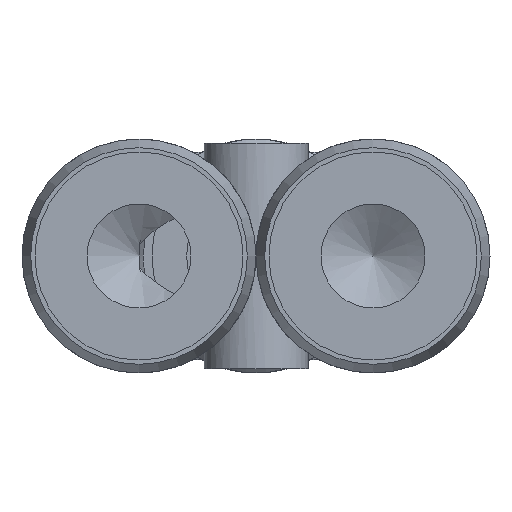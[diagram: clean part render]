
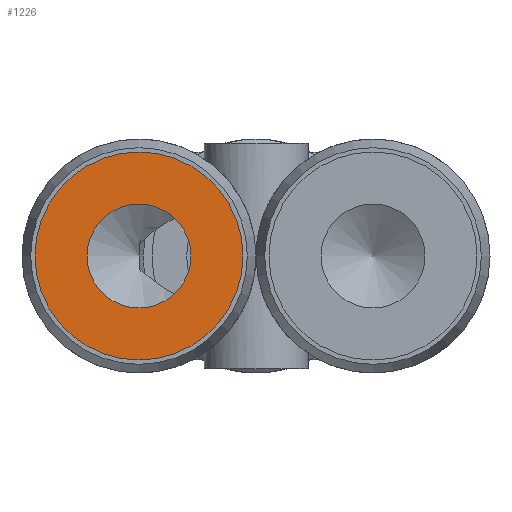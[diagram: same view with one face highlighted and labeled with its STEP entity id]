
A CAD part, front view. The second image highlights one B-rep face of the part: STEP entity #1226.
In plain terms, the highlighted planar face has unit normal (0, -1, 0).
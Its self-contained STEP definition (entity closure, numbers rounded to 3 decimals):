
#47=FACE_BOUND('',#235,.T.);
#65=PLANE('',#1362);
#154=FACE_OUTER_BOUND('',#234,.T.);
#234=EDGE_LOOP('',(#925,#926));
#235=EDGE_LOOP('',(#927));
#404=CIRCLE('',#1344,3.);
#414=CIRCLE('',#1360,6.);
#415=CIRCLE('',#1361,6.);
#520=VERTEX_POINT('',#2146);
#532=VERTEX_POINT('',#2200);
#533=VERTEX_POINT('',#2201);
#663=EDGE_CURVE('',#520,#520,#404,.T.);
#679=EDGE_CURVE('',#532,#533,#414,.T.);
#681=EDGE_CURVE('',#533,#532,#415,.T.);
#925=ORIENTED_EDGE('',*,*,#679,.F.);
#926=ORIENTED_EDGE('',*,*,#681,.F.);
#927=ORIENTED_EDGE('',*,*,#663,.T.);
#1226=ADVANCED_FACE('',(#154,#47),#65,.F.);
#1344=AXIS2_PLACEMENT_3D('',#2147,#1584,#1585);
#1360=AXIS2_PLACEMENT_3D('',#2202,#1618,#1619);
#1361=AXIS2_PLACEMENT_3D('',#2204,#1621,#1622);
#1362=AXIS2_PLACEMENT_3D('',#2205,#1623,#1624);
#1584=DIRECTION('center_axis',(0.,1.,0.));
#1585=DIRECTION('ref_axis',(-1.,0.,0.));
#1618=DIRECTION('center_axis',(0.,1.,0.));
#1619=DIRECTION('ref_axis',(-1.,0.,0.));
#1621=DIRECTION('center_axis',(0.,1.,0.));
#1622=DIRECTION('ref_axis',(-1.,0.,0.));
#1623=DIRECTION('center_axis',(0.,1.,0.));
#1624=DIRECTION('ref_axis',(0.,0.,-1.));
#2146=CARTESIAN_POINT('',(-3.75,-14.113,0.));
#2147=CARTESIAN_POINT('Origin',(-6.75,-14.113,0.));
#2200=CARTESIAN_POINT('',(-12.75,-14.113,0.));
#2201=CARTESIAN_POINT('',(-0.75,-14.113,0.));
#2202=CARTESIAN_POINT('Origin',(-6.75,-14.113,0.));
#2204=CARTESIAN_POINT('Origin',(-6.75,-14.113,0.));
#2205=CARTESIAN_POINT('Origin',(-9.75,-14.113,0.));
